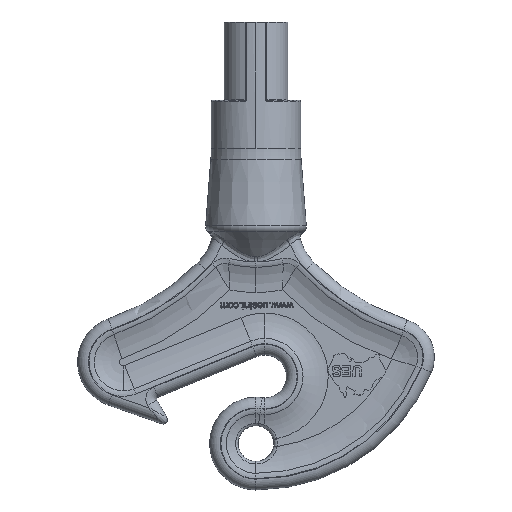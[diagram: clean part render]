
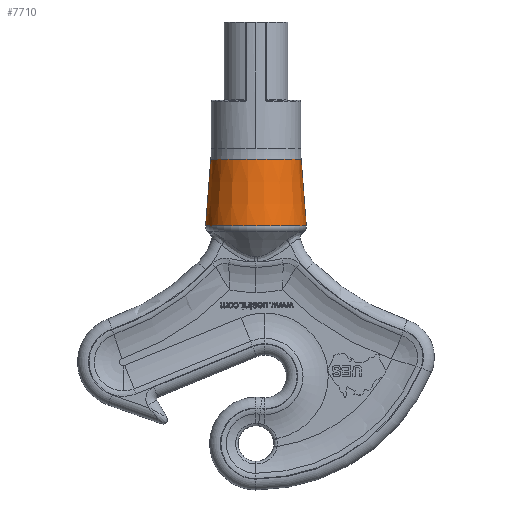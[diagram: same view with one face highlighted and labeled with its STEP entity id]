
A CAD part, left-side view. The second image highlights one B-rep face of the part: STEP entity #7710.
In plain terms, the highlighted conical face has half-angle 4.432 degrees and reference radius 7.09 mm.
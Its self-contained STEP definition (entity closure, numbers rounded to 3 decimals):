
#231 = EDGE_CURVE ( 'NONE', #2816, #6935, #21865, .T. ) ;
#566 = VECTOR ( 'NONE', #3970, 1000. ) ;
#1594 = CARTESIAN_POINT ( 'NONE',  ( 0., 0., -10.519 ) ) ;
#2414 = DIRECTION ( 'NONE',  ( 0., -1., 0. ) ) ;
#2417 = EDGE_CURVE ( 'NONE', #6935, #21447, #9169, .T. ) ;
#2600 = DIRECTION ( 'NONE',  ( 0., -1., 0. ) ) ;
#2816 = VERTEX_POINT ( 'NONE', #7595 ) ;
#3970 = DIRECTION ( 'NONE',  ( 0., 0.077, -0.997 ) ) ;
#4159 = EDGE_CURVE ( 'NONE', #21447, #17451, #19347, .T. ) ;
#4275 = DIRECTION ( 'NONE',  ( 0., 0., -1. ) ) ;
#4687 = CARTESIAN_POINT ( 'NONE',  ( 0., -7.09, -10.519 ) ) ;
#5125 = CARTESIAN_POINT ( 'NONE',  ( 0., -7.055, -10.068 ) ) ;
#6442 = DIRECTION ( 'NONE',  ( 0., -0.077, -0.997 ) ) ;
#6935 = VERTEX_POINT ( 'NONE', #9036 ) ;
#7010 = ORIENTED_EDGE ( 'NONE', *, *, #4159, .T. ) ;
#7595 = CARTESIAN_POINT ( 'NONE',  ( 0., -6.335, -0.772 ) ) ;
#7710 = ADVANCED_FACE ( 'NONE', ( #12531 ), #21129, .T. ) ;
#9036 = CARTESIAN_POINT ( 'NONE',  ( 0., 6.335, -0.772 ) ) ;
#9169 = LINE ( 'NONE', #14245, #566 ) ;
#9191 = EDGE_CURVE ( 'NONE', #2816, #17451, #15152, .T. ) ;
#9869 = ORIENTED_EDGE ( 'NONE', *, *, #231, .T. ) ;
#10519 = DIRECTION ( 'NONE',  ( 0., 1., 0. ) ) ;
#10895 = EDGE_LOOP ( 'NONE', ( #20122, #9869, #13798, #7010 ) ) ;
#11232 = CARTESIAN_POINT ( 'NONE',  ( 0., 0., -10.068 ) ) ;
#12531 = FACE_OUTER_BOUND ( 'NONE', #10895, .T. ) ;
#12556 = AXIS2_PLACEMENT_3D ( 'NONE', #14548, #4275, #2414 ) ;
#13021 = VECTOR ( 'NONE', #6442, 1000. ) ;
#13798 = ORIENTED_EDGE ( 'NONE', *, *, #2417, .T. ) ;
#14245 = CARTESIAN_POINT ( 'NONE',  ( 0., 7.09, -10.519 ) ) ;
#14548 = CARTESIAN_POINT ( 'NONE',  ( 0., 0., -0.772 ) ) ;
#15152 = LINE ( 'NONE', #4687, #13021 ) ;
#15404 = DIRECTION ( 'NONE',  ( 0., 0., -1. ) ) ;
#17322 = AXIS2_PLACEMENT_3D ( 'NONE', #1594, #15404, #10519 ) ;
#17451 = VERTEX_POINT ( 'NONE', #5125 ) ;
#17544 = CARTESIAN_POINT ( 'NONE',  ( 0., 7.055, -10.068 ) ) ;
#19347 = CIRCLE ( 'NONE', #21635, 7.055 ) ;
#20122 = ORIENTED_EDGE ( 'NONE', *, *, #9191, .F. ) ;
#21129 = CONICAL_SURFACE ( 'NONE', #17322, 7.09, 0.077 ) ;
#21385 = DIRECTION ( 'NONE',  ( 0., 0., 1. ) ) ;
#21447 = VERTEX_POINT ( 'NONE', #17544 ) ;
#21635 = AXIS2_PLACEMENT_3D ( 'NONE', #11232, #21385, #2600 ) ;
#21865 = CIRCLE ( 'NONE', #12556, 6.335 ) ;
